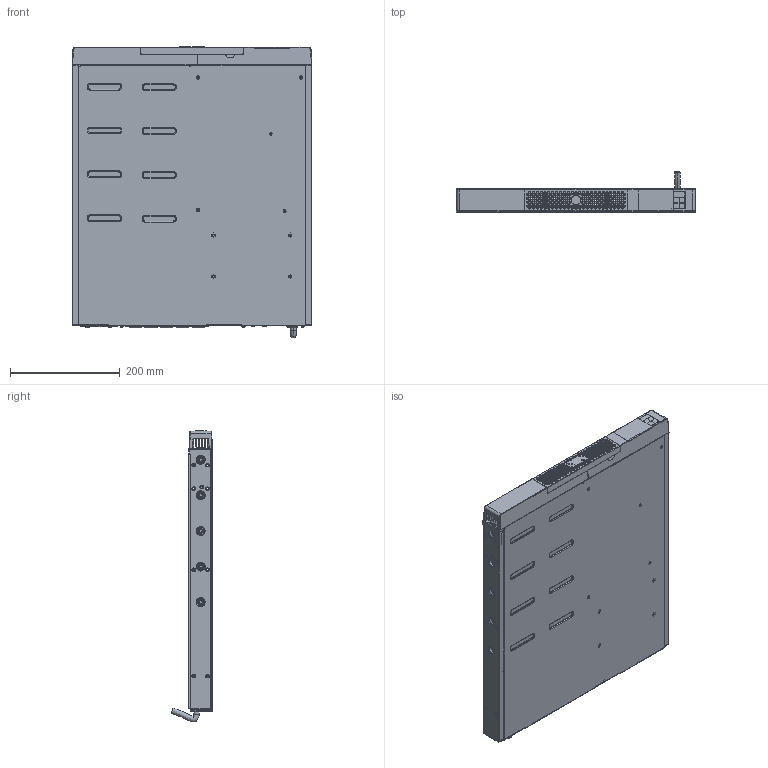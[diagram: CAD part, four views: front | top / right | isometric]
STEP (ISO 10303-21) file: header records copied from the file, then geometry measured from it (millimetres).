
FILE_DESCRIPTION((''),'2;1');
FILE_NAME('HALO-RACK-850_SW0002','2013-02-27T',('E2023539'),(''),'PRO/ENGINEER BY PARAMETRIC TECHNOLOGY CORPORATION, 2011220','PRO/ENGINEER BY PARAMETRIC TECHNOLOGY CORPORATION, 2011220','');
FILE_SCHEMA(('AUTOMOTIVE_DESIGN_CC2 { 1 2 10303 214 -1 1 5 2 }'));
Length unit declared in the file: millimetre
Products named in the file (1): HALO-RACK-850_SW0002
Bounding box: 438 x 75.5 x 532.53 mm (x, y, z)
Surface area: 612022.9 mm2 (no closed solid volume)
Topology: 0 solids, 134 shells, 554 faces, 3922 edges, 3478 vertices
Faces by surface type: plane 239, torus 171, cylinder 99, sphere 23, cone 16, bspline 6
Entity records: 42965 total; most frequent: CARTESIAN_POINT 11745, DIRECTION 6280, ORIENTED_EDGE 4598, EDGE_CURVE 3920, VERTEX_POINT 3478, AXIS2_PLACEMENT_3D 2306, CIRCLE 1758, VECTOR 1668
